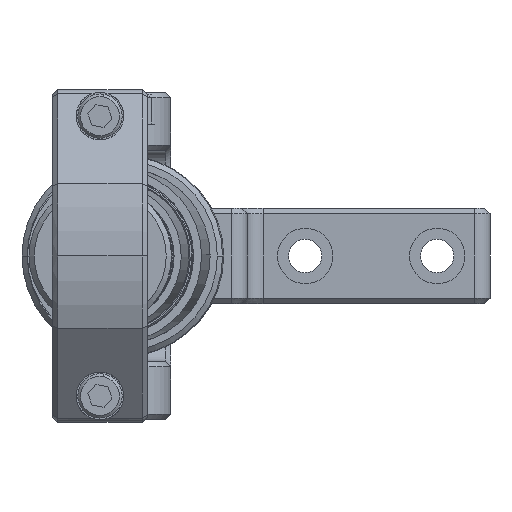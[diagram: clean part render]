
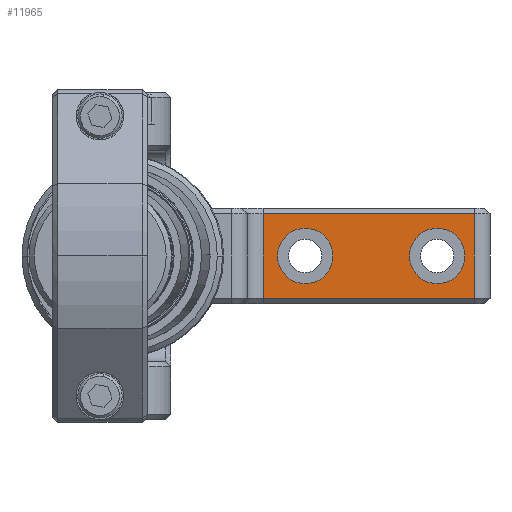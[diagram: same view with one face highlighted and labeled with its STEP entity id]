
A CAD part, left-side view. The second image highlights one B-rep face of the part: STEP entity #11965.
In plain terms, the highlighted planar face has unit normal (-1, 0, 0).
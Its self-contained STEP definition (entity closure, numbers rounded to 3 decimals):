
#103 = VERTEX_POINT ( 'NONE', #7381 ) ;
#127 = VECTOR ( 'NONE', #17049, 1000. ) ;
#186 = LINE ( 'NONE', #19247, #127 ) ;
#403 = VERTEX_POINT ( 'NONE', #11854 ) ;
#556 = AXIS2_PLACEMENT_3D ( 'NONE', #17173, #6323, #4125 ) ;
#652 = VERTEX_POINT ( 'NONE', #14073 ) ;
#703 = DIRECTION ( 'NONE',  ( 0., 0., 1. ) ) ;
#788 = CIRCLE ( 'NONE', #15844, 5.25 ) ;
#969 = EDGE_CURVE ( 'NONE', #103, #652, #3144, .T. ) ;
#1289 = LINE ( 'NONE', #20413, #4638 ) ;
#1445 = DIRECTION ( 'NONE',  ( -1., 0., 0. ) ) ;
#2275 = CIRCLE ( 'NONE', #3029, 5.25 ) ;
#2362 = DIRECTION ( 'NONE',  ( 0., 1., 0. ) ) ;
#2577 = VECTOR ( 'NONE', #3165, 1000. ) ;
#2842 = DIRECTION ( 'NONE',  ( -1., 0., 0. ) ) ;
#3029 = AXIS2_PLACEMENT_3D ( 'NONE', #15952, #2842, #703 ) ;
#3144 = CIRCLE ( 'NONE', #556, 5.25 ) ;
#3165 = DIRECTION ( 'NONE',  ( 0., -1., 0. ) ) ;
#3629 = CARTESIAN_POINT ( 'NONE',  ( 11.406, -27.873, 9. ) ) ;
#4091 = EDGE_CURVE ( 'NONE', #10090, #18468, #1289, .T. ) ;
#4125 = DIRECTION ( 'NONE',  ( 0., 0., 1. ) ) ;
#4211 = CARTESIAN_POINT ( 'NONE',  ( 11.406, -27.873, 3.75 ) ) ;
#4354 = EDGE_LOOP ( 'NONE', ( #5580, #14252 ) ) ;
#4613 = DIRECTION ( 'NONE',  ( 1., 0., 0. ) ) ;
#4638 = VECTOR ( 'NONE', #18230, 1000. ) ;
#4794 = EDGE_CURVE ( 'NONE', #652, #103, #2275, .T. ) ;
#5128 = ORIENTED_EDGE ( 'NONE', *, *, #17745, .T. ) ;
#5378 = CARTESIAN_POINT ( 'NONE',  ( 11.406, -34.873, 1. ) ) ;
#5542 = VERTEX_POINT ( 'NONE', #8725 ) ;
#5580 = ORIENTED_EDGE ( 'NONE', *, *, #7298, .F. ) ;
#5882 = ORIENTED_EDGE ( 'NONE', *, *, #14934, .T. ) ;
#6323 = DIRECTION ( 'NONE',  ( -1., 0., 0. ) ) ;
#6816 = CARTESIAN_POINT ( 'NONE',  ( 11.406, -34.873, 18. ) ) ;
#6999 = EDGE_CURVE ( 'NONE', #18914, #5542, #788, .T. ) ;
#7032 = ORIENTED_EDGE ( 'NONE', *, *, #969, .F. ) ;
#7298 = EDGE_CURVE ( 'NONE', #5542, #18914, #12292, .T. ) ;
#7381 = CARTESIAN_POINT ( 'NONE',  ( 11.406, -2.873, 14.25 ) ) ;
#7754 = VECTOR ( 'NONE', #10831, 1000. ) ;
#7968 = CARTESIAN_POINT ( 'NONE',  ( 11.406, -34.873, 1. ) ) ;
#8094 = ORIENTED_EDGE ( 'NONE', *, *, #18393, .T. ) ;
#8523 = ORIENTED_EDGE ( 'NONE', *, *, #4091, .F. ) ;
#8725 = CARTESIAN_POINT ( 'NONE',  ( 11.406, -27.873, 14.25 ) ) ;
#8922 = PLANE ( 'NONE',  #15319 ) ;
#8939 = CARTESIAN_POINT ( 'NONE',  ( 11.406, 5.127, 17. ) ) ;
#9575 = DIRECTION ( 'NONE',  ( 0., 0., 1. ) ) ;
#9679 = AXIS2_PLACEMENT_3D ( 'NONE', #3629, #1445, #20564 ) ;
#10090 = VERTEX_POINT ( 'NONE', #10823 ) ;
#10754 = ORIENTED_EDGE ( 'NONE', *, *, #4794, .F. ) ;
#10823 = CARTESIAN_POINT ( 'NONE',  ( 11.406, -34.873, 17. ) ) ;
#10831 = DIRECTION ( 'NONE',  ( 0., 0., -1. ) ) ;
#11762 = DIRECTION ( 'NONE',  ( -1., 0., 0. ) ) ;
#11854 = CARTESIAN_POINT ( 'NONE',  ( 11.406, 5.127, 1. ) ) ;
#11965 = ADVANCED_FACE ( 'NONE', ( #12040, #13525, #13649 ), #8922, .F. ) ;
#12040 = FACE_BOUND ( 'NONE', #4354, .T. ) ;
#12279 = EDGE_LOOP ( 'NONE', ( #7032, #10754 ) ) ;
#12292 = CIRCLE ( 'NONE', #9679, 5.25 ) ;
#12980 = CARTESIAN_POINT ( 'NONE',  ( 11.406, 5.127, 18. ) ) ;
#13525 = FACE_BOUND ( 'NONE', #12279, .T. ) ;
#13649 = FACE_OUTER_BOUND ( 'NONE', #19329, .T. ) ;
#14073 = CARTESIAN_POINT ( 'NONE',  ( 11.406, -2.873, 3.75 ) ) ;
#14252 = ORIENTED_EDGE ( 'NONE', *, *, #6999, .F. ) ;
#14807 = VERTEX_POINT ( 'NONE', #8939 ) ;
#14934 = EDGE_CURVE ( 'NONE', #403, #18468, #16256, .T. ) ;
#15153 = LINE ( 'NONE', #12980, #7754 ) ;
#15319 = AXIS2_PLACEMENT_3D ( 'NONE', #6816, #4613, #2362 ) ;
#15844 = AXIS2_PLACEMENT_3D ( 'NONE', #18273, #11762, #9575 ) ;
#15952 = CARTESIAN_POINT ( 'NONE',  ( 11.406, -2.873, 9. ) ) ;
#16256 = LINE ( 'NONE', #5378, #2577 ) ;
#17049 = DIRECTION ( 'NONE',  ( 0., 1., 0. ) ) ;
#17173 = CARTESIAN_POINT ( 'NONE',  ( 11.406, -2.873, 9. ) ) ;
#17745 = EDGE_CURVE ( 'NONE', #14807, #403, #15153, .T. ) ;
#18230 = DIRECTION ( 'NONE',  ( 0., 0., -1. ) ) ;
#18273 = CARTESIAN_POINT ( 'NONE',  ( 11.406, -27.873, 9. ) ) ;
#18393 = EDGE_CURVE ( 'NONE', #10090, #14807, #186, .T. ) ;
#18468 = VERTEX_POINT ( 'NONE', #7968 ) ;
#18914 = VERTEX_POINT ( 'NONE', #4211 ) ;
#19247 = CARTESIAN_POINT ( 'NONE',  ( 11.406, 5.127, 17. ) ) ;
#19329 = EDGE_LOOP ( 'NONE', ( #5128, #5882, #8523, #8094 ) ) ;
#20413 = CARTESIAN_POINT ( 'NONE',  ( 11.406, -34.873, 18. ) ) ;
#20564 = DIRECTION ( 'NONE',  ( 0., 0., 1. ) ) ;
